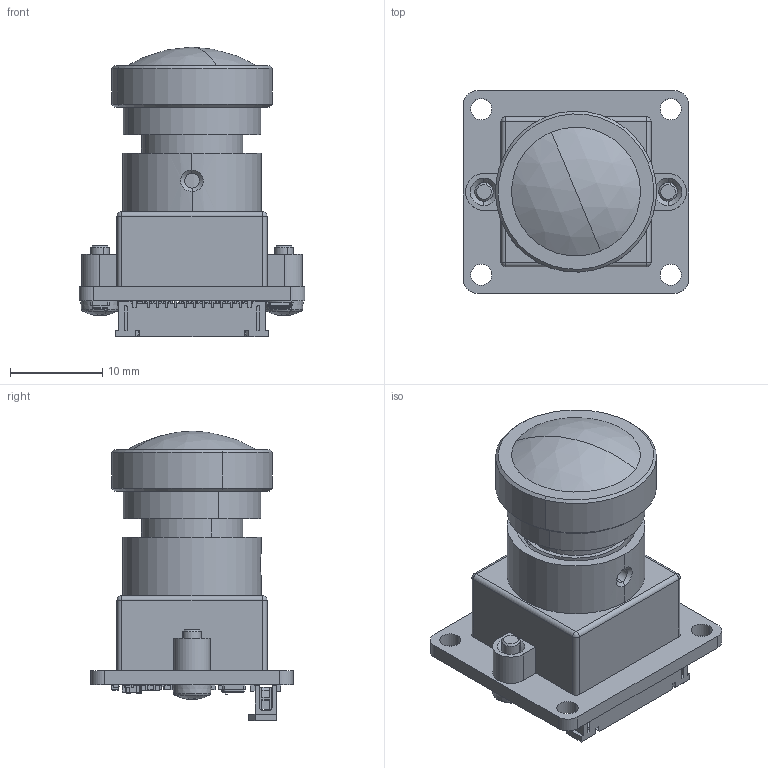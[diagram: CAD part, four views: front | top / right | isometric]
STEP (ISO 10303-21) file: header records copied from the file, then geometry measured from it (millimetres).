
FILE_DESCRIPTION((''),'2;1');
FILE_NAME('DS-CIMX415-22-28_LIGHT','2025-03-13T',('admin'),(''),'CREO PARAMETRIC BY PTC INC, 2017300','CREO PARAMETRIC BY PTC INC, 2017300','');
FILE_SCHEMA(('AUTOMOTIVE_DESIGN { 1 0 10303 214 1 1 1 1 }'));
Length unit declared in the file: millimetre
Products named in the file (1): DS-CIMX415-22-28_LIGHT
Bounding box: 24.5 x 22 x 31.47 mm (x, y, z)
Surface area: 3778.9 mm2 (no closed solid volume)
Topology: 0 solids, 274 shells, 738 faces, 2921 edges, 2451 vertices
Faces by surface type: plane 591, cylinder 91, bspline 28, cone 18, sphere 6, torus 4
Entity records: 36988 total; most frequent: CARTESIAN_POINT 8648, DIRECTION 4603, ORIENTED_EDGE 3612, EDGE_CURVE 2917, VECTOR 2451, LINE 2451, VERTEX_POINT 2451, AXIS2_PLACEMENT_3D 1076
